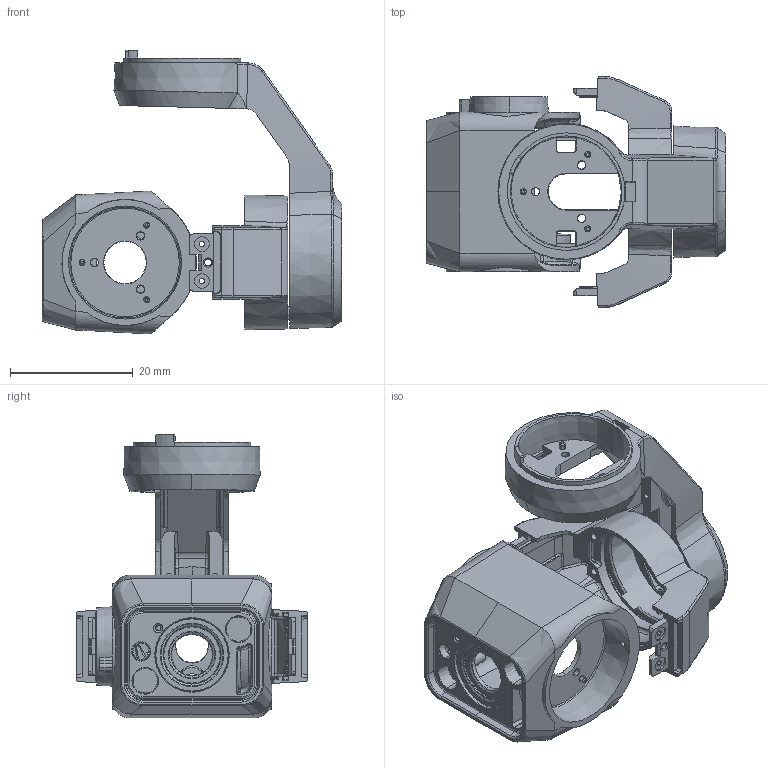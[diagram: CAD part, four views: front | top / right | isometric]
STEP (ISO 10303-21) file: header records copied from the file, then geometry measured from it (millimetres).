
FILE_DESCRIPTION((''),'2;1');
FILE_NAME('SCYT_20261020_1__ASM','2026-10-22T13:49:27',('LDJ13'),(''),'CREO PARAMETRIC BY PTC INC, 2018050','CREO PARAMETRIC BY PTC INC, 2018050','');
FILE_SCHEMA(('CONFIG_CONTROL_DESIGN','SHAPE_APPEARANCE_LAYERS_GROUPS'));
Products named in the file (10): PRT0003_3; ASM0005_ASM_1_ASM; PRT0002_6; ASM0003_ASM_2_ASM; PRT0001_96; ASM0001_ASM_13_ASM; ASM0002_ASM_20_ASM; ASM0004_ASM_5_ASM; ASM0006_ASM_3_ASM; SCYT_20261020_1__ASM
Assembly tree (9 placements, depth 6):
  SCYT_20261020_1__ASM
    ASM0006_ASM_3_ASM
      ASM0005_ASM_1_ASM
        PRT0003_3
      ASM0004_ASM_5_ASM
        ASM0003_ASM_2_ASM
          PRT0002_6
        ASM0002_ASM_20_ASM
          ASM0001_ASM_13_ASM
            PRT0001_96
Bounding box: 48.8 x 37.6 x 46.24 mm (x, y, z)
Volume: 7866.2 mm3; surface area: 11269.6 mm2
Topology: 3 solids, 3 shells, 1337 faces, 3486 edges, 2179 vertices
Faces by surface type: plane 393, bspline 348, cylinder 280, cone 217, torus 90, extrusion 5, sphere 4
Entity records: 84392 total; most frequent: CARTESIAN_POINT 50130, ORIENTED_EDGE 6950, DIRECTION 5238, EDGE_CURVE 3475, VERTEX_POINT 2179, AXIS2_PLACEMENT_3D 1969, EDGE_LOOP 1436, PRESENTATION_STYLE_ASSIGNMENT 1379
